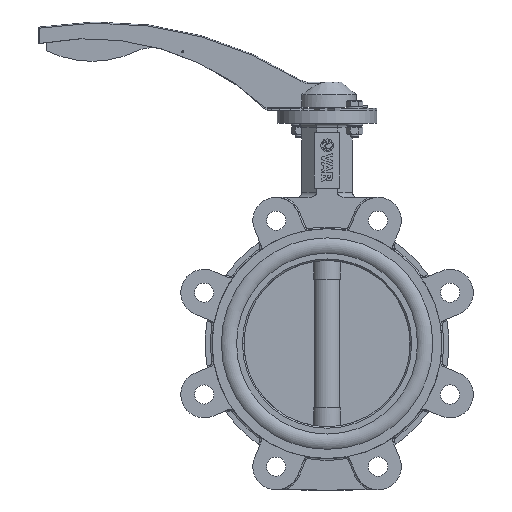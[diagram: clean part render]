
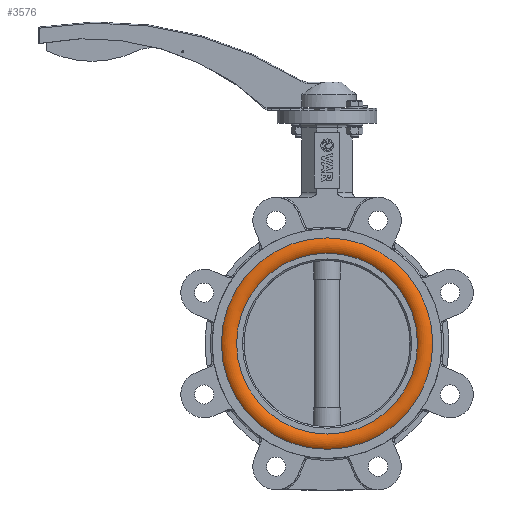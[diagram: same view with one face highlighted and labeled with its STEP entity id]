
A CAD part, left-side view. The second image highlights one B-rep face of the part: STEP entity #3576.
In plain terms, the highlighted toroidal (fillet/blend) face has major radius 88.448 mm and minor radius 9.98 mm.
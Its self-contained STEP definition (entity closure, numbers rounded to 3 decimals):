
#3576=ADVANCED_FACE('',(#7680,#7682),#7684,.T.);
#7680=FACE_OUTER_BOUND('',#7681,.T.);
#7681=EDGE_LOOP('',(#12276));
#7682=FACE_OUTER_BOUND('',#7683,.T.);
#7683=EDGE_LOOP('',(#12277));
#7684=TOROIDAL_SURFACE('',#7685,88.448,9.98);
#7685=AXIS2_PLACEMENT_3D('',#7686,#7687,#7688);
#7686=CARTESIAN_POINT('',(-20.575,0.,0.));
#7687=DIRECTION('',(-1.,0.,0.));
#7688=DIRECTION('',(0.,0.,1.));
#12276=ORIENTED_EDGE('',*,*,#14296,.T.);
#12277=ORIENTED_EDGE('',*,*,#14292,.F.);
#14292=EDGE_CURVE('',#16934,#16934,#16935,.T.);
#14296=EDGE_CURVE('',#16942,#16942,#16943,.T.);
#16934=VERTEX_POINT('',#25313);
#16935=CIRCLE('',#25314,81.563);
#16942=VERTEX_POINT('',#25333);
#16943=CIRCLE('',#25334,95.333);
#25313=CARTESIAN_POINT('',(-27.8,0.,81.563));
#25314=AXIS2_PLACEMENT_3D('',#25315,#25316,#25317);
#25315=CARTESIAN_POINT('',(-27.8,0.,0.));
#25316=DIRECTION('',(-1.,0.,0.));
#25317=DIRECTION('',(0.,0.,1.));
#25333=CARTESIAN_POINT('',(-27.8,0.,95.333));
#25334=AXIS2_PLACEMENT_3D('',#25335,#25336,#25337);
#25335=CARTESIAN_POINT('',(-27.8,0.,0.));
#25336=DIRECTION('',(-1.,0.,0.));
#25337=DIRECTION('',(0.,0.,1.));
